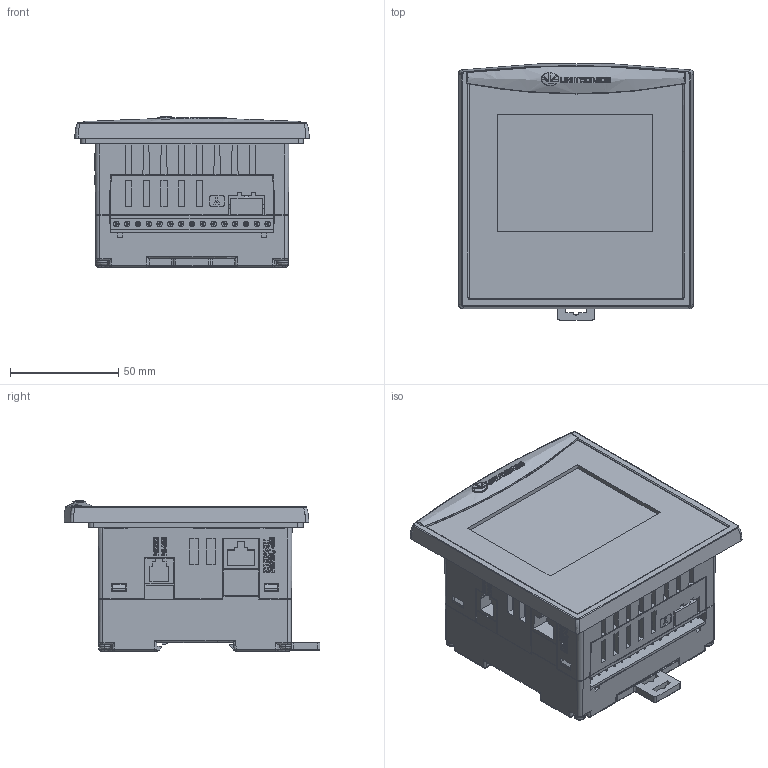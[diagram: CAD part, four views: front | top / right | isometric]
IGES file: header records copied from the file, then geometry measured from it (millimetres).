
Start section: SolidWorks IGES file using analytic representation for surfaces
Global section: file name: Z:\Products\V350\CAD files\3D Files\IGES\V350-35.IGS; native system: SolidWorks 2011; preprocessor: SolidWorks 2011; author: baraki; date: 120624.100639; units: millimetre
Bounding box: 108.43 x 118.34 x 69.6 mm (x, y, z)
Surface area: 126570.9 mm2 (no closed solid volume)
Topology: 0 solids, 0 shells, 3090 faces, 26693 edges, 26673 vertices
Faces by surface type: bspline 2703, revolution 387
